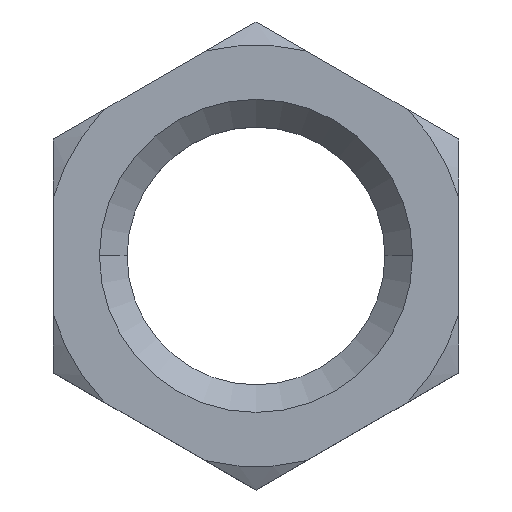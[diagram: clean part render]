
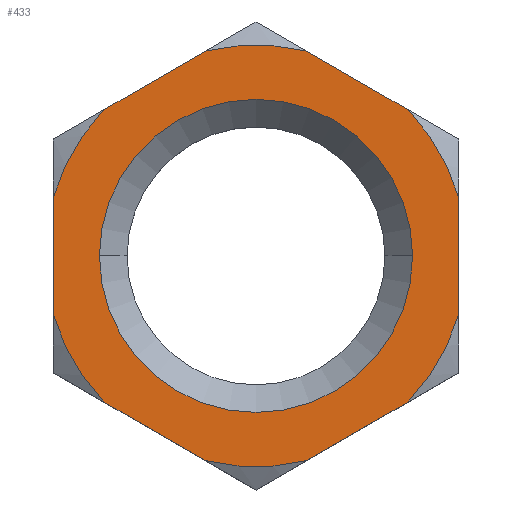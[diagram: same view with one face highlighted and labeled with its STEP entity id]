
A CAD part, top view. The second image highlights one B-rep face of the part: STEP entity #433.
In plain terms, the highlighted planar face has unit normal (0, 0, 1).
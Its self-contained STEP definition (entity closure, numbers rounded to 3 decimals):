
#1 = CARTESIAN_POINT ( 'NONE',  ( 0., 0., 3.21 ) ) ;
#4 = DIRECTION ( 'NONE',  ( 1., 0., 0. ) ) ;
#7 = CARTESIAN_POINT ( 'NONE',  ( 0., 0., 3.21 ) ) ;
#8 = EDGE_CURVE ( 'NONE', #422, #213, #549, .T. ) ;
#15 = PLANE ( 'NONE',  #533 ) ;
#21 = CARTESIAN_POINT ( 'NONE',  ( -2.742, -11.119, 3.21 ) ) ;
#34 = EDGE_CURVE ( 'NONE', #685, #175, #194, .T. ) ;
#36 = VERTEX_POINT ( 'NONE', #359 ) ;
#43 = ORIENTED_EDGE ( 'NONE', *, *, #242, .T. ) ;
#45 = ORIENTED_EDGE ( 'NONE', *, *, #8, .F. ) ;
#57 = VECTOR ( 'NONE', #386, 1000. ) ;
#79 = DIRECTION ( 'NONE',  ( 0., 1., 0. ) ) ;
#83 = ORIENTED_EDGE ( 'NONE', *, *, #34, .F. ) ;
#87 = EDGE_CURVE ( 'NONE', #685, #389, #708, .T. ) ;
#110 = CARTESIAN_POINT ( 'NONE',  ( -8.258, -7.934, 3.21 ) ) ;
#117 = EDGE_CURVE ( 'NONE', #198, #437, #557, .T. ) ;
#125 = VERTEX_POINT ( 'NONE', #416 ) ;
#126 = CIRCLE ( 'NONE', #461, 11.452 ) ;
#131 = EDGE_CURVE ( 'NONE', #422, #175, #507, .T. ) ;
#147 = EDGE_CURVE ( 'NONE', #218, #36, #319, .T. ) ;
#157 = DIRECTION ( 'NONE',  ( 0., 0., -1. ) ) ;
#158 = CARTESIAN_POINT ( 'NONE',  ( 11., -6.351, 3.21 ) ) ;
#175 = VERTEX_POINT ( 'NONE', #894 ) ;
#183 = ORIENTED_EDGE ( 'NONE', *, *, #87, .T. ) ;
#189 = DIRECTION ( 'NONE',  ( -0.866, 0.5, 0. ) ) ;
#194 = CIRCLE ( 'NONE', #288, 11.452 ) ;
#198 = VERTEX_POINT ( 'NONE', #110 ) ;
#207 = CARTESIAN_POINT ( 'NONE',  ( 0., 0., 3.21 ) ) ;
#213 = VERTEX_POINT ( 'NONE', #335 ) ;
#214 = VECTOR ( 'NONE', #189, 1000. ) ;
#215 = DIRECTION ( 'NONE',  ( 0., 0., -1. ) ) ;
#218 = VERTEX_POINT ( 'NONE', #486 ) ;
#226 = EDGE_CURVE ( 'NONE', #125, #437, #782, .T. ) ;
#242 = EDGE_CURVE ( 'NONE', #891, #690, #707, .T. ) ;
#248 = ORIENTED_EDGE ( 'NONE', *, *, #824, .T. ) ;
#251 = DIRECTION ( 'NONE',  ( -1., 0., 0. ) ) ;
#254 = AXIS2_PLACEMENT_3D ( 'NONE', #465, #308, #806 ) ;
#264 = CARTESIAN_POINT ( 'NONE',  ( 0., 0., 3.21 ) ) ;
#281 = CIRCLE ( 'NONE', #324, 11.452 ) ;
#288 = AXIS2_PLACEMENT_3D ( 'NONE', #207, #781, #574 ) ;
#304 = CARTESIAN_POINT ( 'NONE',  ( 0., 12.702, 3.21 ) ) ;
#305 = VECTOR ( 'NONE', #540, 1000. ) ;
#308 = DIRECTION ( 'NONE',  ( 0., 0., -1. ) ) ;
#309 = DIRECTION ( 'NONE',  ( -1., 0., 0. ) ) ;
#314 = CARTESIAN_POINT ( 'NONE',  ( -11., -3.185, 3.21 ) ) ;
#319 = CIRCLE ( 'NONE', #401, 11.452 ) ;
#324 = AXIS2_PLACEMENT_3D ( 'NONE', #7, #157, #309 ) ;
#328 = ORIENTED_EDGE ( 'NONE', *, *, #858, .T. ) ;
#335 = CARTESIAN_POINT ( 'NONE',  ( 11., 3.185, 3.21 ) ) ;
#339 = AXIS2_PLACEMENT_3D ( 'NONE', #1, #215, #713 ) ;
#347 = CARTESIAN_POINT ( 'NONE',  ( 0., 0., 3.21 ) ) ;
#348 = ORIENTED_EDGE ( 'NONE', *, *, #854, .T. ) ;
#359 = CARTESIAN_POINT ( 'NONE',  ( 8.258, -7.934, 3.21 ) ) ;
#362 = DIRECTION ( 'NONE',  ( 1., 0., 0. ) ) ;
#364 = ORIENTED_EDGE ( 'NONE', *, *, #633, .T. ) ;
#376 = AXIS2_PLACEMENT_3D ( 'NONE', #434, #626, #362 ) ;
#380 = CARTESIAN_POINT ( 'NONE',  ( -2.742, 11.119, 3.21 ) ) ;
#383 = CARTESIAN_POINT ( 'NONE',  ( 0., 0., 3.21 ) ) ;
#386 = DIRECTION ( 'NONE',  ( -0.866, -0.5, 0. ) ) ;
#389 = VERTEX_POINT ( 'NONE', #789 ) ;
#391 = CARTESIAN_POINT ( 'NONE',  ( -11., 6.351, 3.21 ) ) ;
#395 = AXIS2_PLACEMENT_3D ( 'NONE', #347, #577, #421 ) ;
#397 = CARTESIAN_POINT ( 'NONE',  ( -11., 3.185, 3.21 ) ) ;
#398 = CARTESIAN_POINT ( 'NONE',  ( 0., 0., 3.21 ) ) ;
#401 = AXIS2_PLACEMENT_3D ( 'NONE', #264, #761, #678 ) ;
#416 = CARTESIAN_POINT ( 'NONE',  ( 2.742, -11.119, 3.21 ) ) ;
#421 = DIRECTION ( 'NONE',  ( 1., 0., 0. ) ) ;
#422 = VERTEX_POINT ( 'NONE', #655 ) ;
#433 = ADVANCED_FACE ( 'NONE', ( #931, #738 ), #15, .T. ) ;
#434 = CARTESIAN_POINT ( 'NONE',  ( 0., 0., 3.21 ) ) ;
#437 = VERTEX_POINT ( 'NONE', #21 ) ;
#445 = EDGE_CURVE ( 'NONE', #596, #389, #281, .T. ) ;
#453 = CARTESIAN_POINT ( 'NONE',  ( 8.5, 0., 3.21 ) ) ;
#454 = LINE ( 'NONE', #629, #500 ) ;
#461 = AXIS2_PLACEMENT_3D ( 'NONE', #398, #886, #251 ) ;
#465 = CARTESIAN_POINT ( 'NONE',  ( 0., 0., 3.21 ) ) ;
#469 = ORIENTED_EDGE ( 'NONE', *, *, #226, .F. ) ;
#486 = CARTESIAN_POINT ( 'NONE',  ( 11., -3.185, 3.21 ) ) ;
#496 = CARTESIAN_POINT ( 'NONE',  ( -8.5, 0., 3.21 ) ) ;
#500 = VECTOR ( 'NONE', #697, 1000. ) ;
#507 = LINE ( 'NONE', #899, #214 ) ;
#533 = AXIS2_PLACEMENT_3D ( 'NONE', #383, #584, #4 ) ;
#540 = DIRECTION ( 'NONE',  ( 0., -1., 0. ) ) ;
#548 = CIRCLE ( 'NONE', #376, 8.5 ) ;
#549 = CIRCLE ( 'NONE', #254, 11.452 ) ;
#557 = LINE ( 'NONE', #723, #638 ) ;
#574 = DIRECTION ( 'NONE',  ( -1., 0., 0. ) ) ;
#577 = DIRECTION ( 'NONE',  ( 0., 0., -1. ) ) ;
#584 = DIRECTION ( 'NONE',  ( 0., 0., 1. ) ) ;
#596 = VERTEX_POINT ( 'NONE', #397 ) ;
#606 = LINE ( 'NONE', #158, #618 ) ;
#618 = VECTOR ( 'NONE', #79, 1000. ) ;
#626 = DIRECTION ( 'NONE',  ( 0., 0., -1. ) ) ;
#629 = CARTESIAN_POINT ( 'NONE',  ( 0., -12.702, 3.21 ) ) ;
#633 = EDGE_CURVE ( 'NONE', #218, #213, #606, .T. ) ;
#638 = VECTOR ( 'NONE', #734, 1000. ) ;
#655 = CARTESIAN_POINT ( 'NONE',  ( 8.258, 7.934, 3.21 ) ) ;
#678 = DIRECTION ( 'NONE',  ( -1., 0., 0. ) ) ;
#685 = VERTEX_POINT ( 'NONE', #380 ) ;
#690 = VERTEX_POINT ( 'NONE', #453 ) ;
#697 = DIRECTION ( 'NONE',  ( 0.866, 0.5, 0. ) ) ;
#707 = CIRCLE ( 'NONE', #395, 8.5 ) ;
#708 = LINE ( 'NONE', #304, #57 ) ;
#713 = DIRECTION ( 'NONE',  ( -1., 0., 0. ) ) ;
#716 = ORIENTED_EDGE ( 'NONE', *, *, #147, .F. ) ;
#720 = LINE ( 'NONE', #391, #305 ) ;
#723 = CARTESIAN_POINT ( 'NONE',  ( -11., -6.351, 3.21 ) ) ;
#734 = DIRECTION ( 'NONE',  ( 0.866, -0.5, 0. ) ) ;
#738 = FACE_OUTER_BOUND ( 'NONE', #864, .T. ) ;
#757 = ORIENTED_EDGE ( 'NONE', *, *, #117, .T. ) ;
#761 = DIRECTION ( 'NONE',  ( 0., 0., -1. ) ) ;
#766 = ORIENTED_EDGE ( 'NONE', *, *, #131, .T. ) ;
#781 = DIRECTION ( 'NONE',  ( 0., 0., -1. ) ) ;
#782 = CIRCLE ( 'NONE', #339, 11.452 ) ;
#789 = CARTESIAN_POINT ( 'NONE',  ( -8.258, 7.934, 3.21 ) ) ;
#790 = VERTEX_POINT ( 'NONE', #314 ) ;
#800 = EDGE_CURVE ( 'NONE', #198, #790, #126, .T. ) ;
#806 = DIRECTION ( 'NONE',  ( -1., 0., 0. ) ) ;
#824 = EDGE_CURVE ( 'NONE', #596, #790, #720, .T. ) ;
#854 = EDGE_CURVE ( 'NONE', #690, #891, #548, .T. ) ;
#858 = EDGE_CURVE ( 'NONE', #125, #36, #454, .T. ) ;
#864 = EDGE_LOOP ( 'NONE', ( #716, #364, #45, #766, #83, #183, #896, #248, #914, #757, #469, #328 ) ) ;
#886 = DIRECTION ( 'NONE',  ( 0., 0., -1. ) ) ;
#891 = VERTEX_POINT ( 'NONE', #496 ) ;
#894 = CARTESIAN_POINT ( 'NONE',  ( 2.742, 11.119, 3.21 ) ) ;
#896 = ORIENTED_EDGE ( 'NONE', *, *, #445, .F. ) ;
#899 = CARTESIAN_POINT ( 'NONE',  ( 11., 6.351, 3.21 ) ) ;
#914 = ORIENTED_EDGE ( 'NONE', *, *, #800, .F. ) ;
#921 = EDGE_LOOP ( 'NONE', ( #348, #43 ) ) ;
#931 = FACE_BOUND ( 'NONE', #921, .T. ) ;
